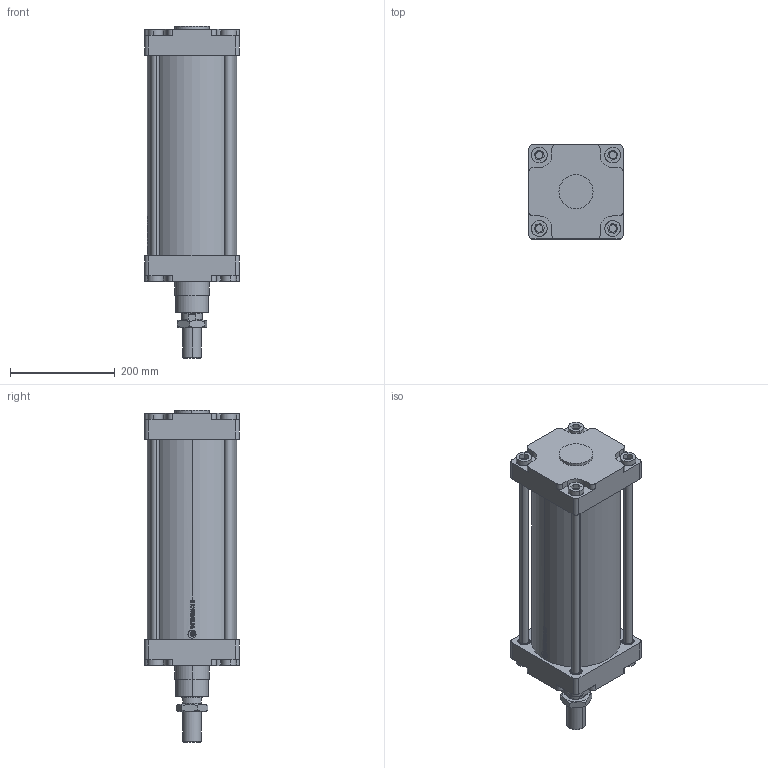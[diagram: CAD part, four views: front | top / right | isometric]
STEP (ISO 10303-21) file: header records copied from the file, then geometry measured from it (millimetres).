
FILE_DESCRIPTION (( 'STEP AP214' ), '1' );
FILE_NAME ('WQGB-160-0300 (3D).STEP', '2025-12-22T09:49:42', ( '' ), ( '' ), 'SwSTEP 2.0', 'SolidWorks 2023', '' );
FILE_SCHEMA (( 'AUTOMOTIVE_DESIGN' ));
Length unit declared in the file: millimetre
Products named in the file (4): Group2^(3D)__10.042.160.03.0300_defeature; Group3^(3D)__10.042.160.03.0300_defeature; Group1^(3D)__10.042.160.03.0300_defeature; WQGB-160-0300 (3D)
Assembly tree (3 placements, depth 2):
  WQGB-160-0300 (3D)
    Group1^(3D)__10.042.160.03.0300_defeature
    Group2^(3D)__10.042.160.03.0300_defeature
    Group3^(3D)__10.042.160.03.0300_defeature
Bounding box: 180 x 180 x 633 mm (x, y, z)
Volume: 11646227.2 mm3; surface area: 893495.4 mm2
Topology: 17 solids, 17 shells, 594 faces, 1365 edges, 884 vertices
Faces by surface type: plane 277, cylinder 233, cone 68, bspline 12, torus 4
Entity records: 24196 total; most frequent: CARTESIAN_POINT 3823, DIRECTION 2933, ORIENTED_EDGE 2722, EDGE_CURVE 1361, AXIS2_PLACEMENT_3D 1118, VERTEX_POINT 884, VECTOR 697, LINE 697
